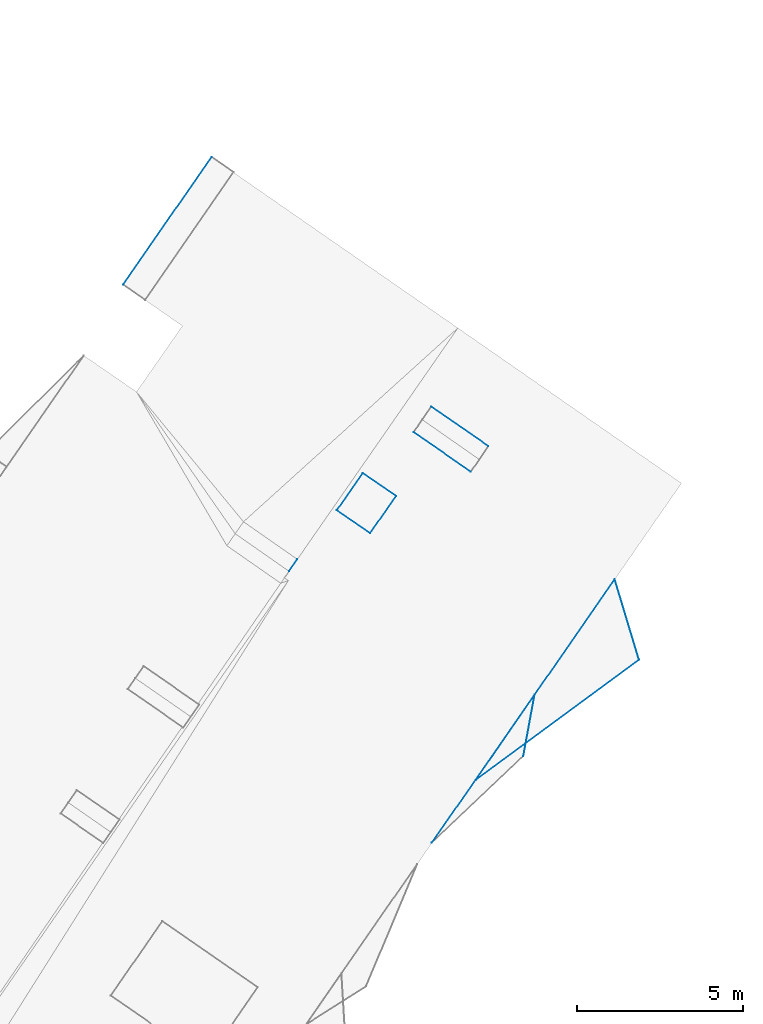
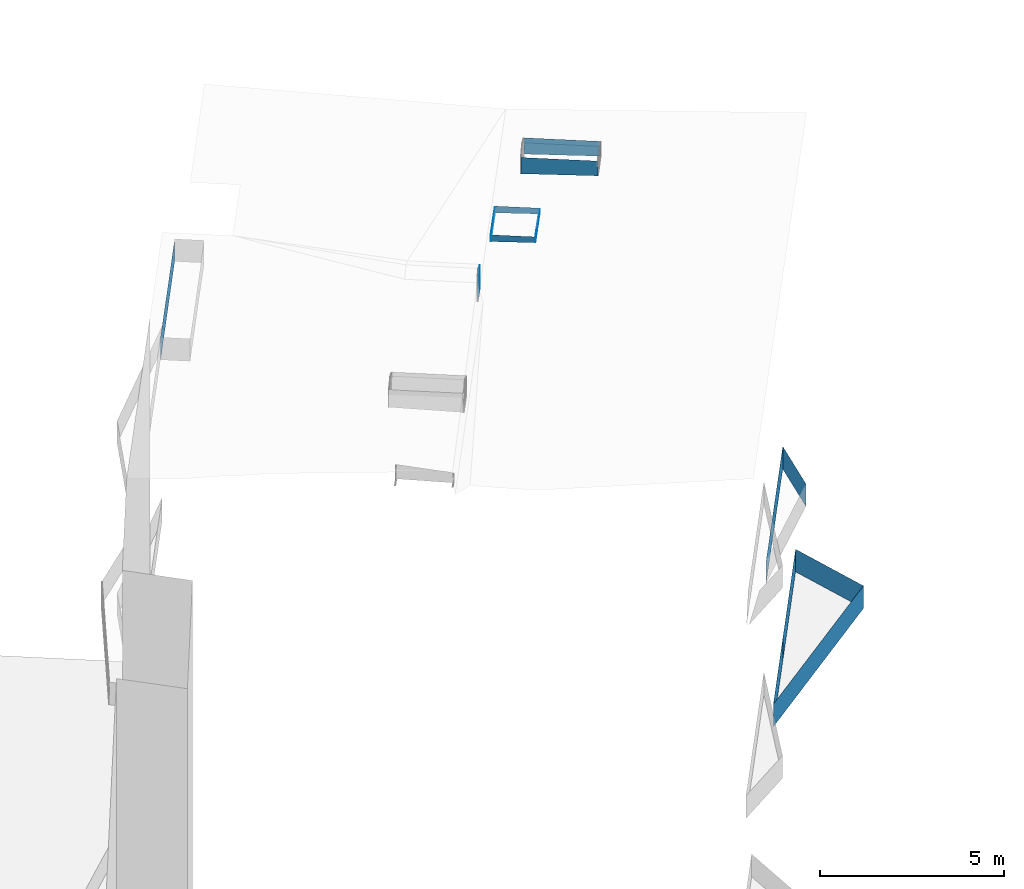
# Not in any storey, part 42 of 136: 21 walls.
"""IFC4 building model written with IfcOpenShell, lengths in metres."""

from ifc_helpers import new_model, entity, si_unit, converted_unit, frame, origin, place, context, subcontext, project, spatial, face_set, surface_model, element, save


model = new_model("IFC4")

# Units and contexts
model_context = context("Model", 3, precision=1e-05, world=origin())
body_context = subcontext(model_context, "Body", "Model", "MODEL_VIEW")
ifc_project = project(units=[converted_unit("PLANEANGLEUNIT", "DEGREE", entity("IfcRatioMeasure", 0.0174532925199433), si_unit("PLANEANGLEUNIT", "RADIAN"), dimensions=[0, 0, 0, 0, 0, 0, 0]), si_unit("AREAUNIT", "SQUARE_METRE"), si_unit("LENGTHUNIT", "METRE")], contexts=[model_context])

# Site, building
site_placement = place(None, origin())
site = spatial("IfcSite", under=ifc_project, at=site_placement, Name="_site")
building_placement = place(site_placement, origin())
building = spatial("IfcBuilding", under=site, at=building_placement, Name="_building")

# Walls
wall_1_placement = place(building_placement, origin())
element("IfcWall", 1, at=wall_1_placement, inside=building, Name="Wall", PredefinedType="NOTDEFINED", context=body_context, shape_type="SurfaceModel", body=[
    surface_model("IfcFaceBasedSurfaceModel", [(0.85, 59.25, 47.54), (0.51, 57.41, 47.54), (0.51, 57.41, 48.29), (0.85, 59.25, 48.29)], [face_set([[[0, 1, 2, 3]]])]),
])
wall_2_placement = place(building_placement, origin())
element("IfcWall", 2, at=wall_2_placement, inside=building, Name="Wall", PredefinedType="NOTDEFINED", context=body_context, shape_type="SurfaceModel", body=[
    surface_model("IfcFaceBasedSurfaceModel", [(-2.24, 54.8, 47.54), (0.85, 59.25, 47.54), (0.85, 59.25, 48.29), (-2.24, 54.8, 48.29)], [face_set([[[0, 1, 2, 3]]])]),
])
wall_3_placement = place(building_placement, origin())
element("IfcWall", 3, at=wall_3_placement, inside=building, Name="Wall", PredefinedType="NOTDEFINED", context=body_context, shape_type="SurfaceModel", body=[
    surface_model("IfcFaceBasedSurfaceModel", [(0.85, 59.25, 47.54), (0.51, 57.41, 47.54), (0.51, 57.41, 48.29), (0.85, 59.25, 48.29)], [face_set([[[0, 1, 2, 3]]])]),
])
wall_4_placement = place(building_placement, origin())
element("IfcWall", 4, at=wall_4_placement, inside=building, Name="Wall", PredefinedType="NOTDEFINED", context=body_context, shape_type="SurfaceModel", body=[
    surface_model("IfcFaceBasedSurfaceModel", [(-2.24, 54.8, 47.54), (0.85, 59.25, 47.54), (0.85, 59.25, 48.29), (-2.24, 54.8, 48.29)], [face_set([[[0, 1, 2, 3]]])]),
])
wall_5_placement = place(building_placement, origin())
element("IfcWall", 5, at=wall_5_placement, inside=building, Name="Wall", PredefinedType="NOTDEFINED", context=body_context, shape_type="SurfaceModel", body=[
    surface_model("IfcFaceBasedSurfaceModel", [(-2.26, 67.92, 54.35), (-0.54, 66.73, 54.35), (-0.54, 66.73, 53.861), (-2.26, 67.92, 53.811)], [face_set([[[0, 1, 2, 3]]])]),
])
wall_6_placement = place(building_placement, origin())
element("IfcWall", 6, at=wall_6_placement, inside=building, Name="Wall", PredefinedType="NOTDEFINED", context=body_context, shape_type="SurfaceModel", body=[
    surface_model("IfcFaceBasedSurfaceModel", [(-0.93, 56.68, 41.18), (0.85, 59.25, 41.18), (0.85, 59.25, 41.93), (-0.93, 56.68, 41.93)], [face_set([[[0, 1, 2, 3]]])]),
])
wall_7_placement = place(building_placement, origin())
element("IfcWall", 7, at=wall_7_placement, inside=building, Name="Wall", PredefinedType="NOTDEFINED", context=body_context, shape_type="SurfaceModel", body=[
    surface_model("IfcFaceBasedSurfaceModel", [(3.99, 60.311, 41.18), (-0.93, 56.68, 41.18), (-0.93, 56.68, 41.93), (3.99, 60.311, 41.93)], [face_set([[[0, 1, 2, 3]]])]),
])
wall_8_placement = place(building_placement, origin())
element("IfcWall", 8, at=wall_8_placement, inside=building, Name="Wall", PredefinedType="NOTDEFINED", context=body_context, shape_type="SurfaceModel", body=[
    surface_model("IfcFaceBasedSurfaceModel", [(3.26, 62.73, 41.18), (3.99, 60.311, 41.18), (3.99, 60.311, 41.93), (3.26, 62.73, 41.93)], [face_set([[[0, 1, 2, 3]]])]),
])
wall_9_placement = place(building_placement, origin())
element("IfcWall", 9, at=wall_9_placement, inside=building, Name="Wall", PredefinedType="NOTDEFINED", context=body_context, shape_type="SurfaceModel", body=[
    surface_model("IfcFaceBasedSurfaceModel", [(0.85, 59.25, 41.18), (3.26, 62.73, 41.18), (3.26, 62.73, 41.93), (0.85, 59.25, 41.93)], [face_set([[[0, 1, 2, 3]]])]),
])
wall_10_placement = place(building_placement, origin())
element("IfcWall", 10, at=wall_10_placement, inside=building, Name="Wall", PredefinedType="NOTDEFINED", context=body_context, shape_type="SurfaceModel", body=[
    surface_model("IfcFaceBasedSurfaceModel", [(-0.93, 56.68, 41.18), (0.85, 59.25, 41.18), (0.85, 59.25, 41.93), (-0.93, 56.68, 41.93)], [face_set([[[0, 1, 2, 3]]])]),
])
wall_11_placement = place(building_placement, origin())
element("IfcWall", 11, at=wall_11_placement, inside=building, Name="Wall", PredefinedType="NOTDEFINED", context=body_context, shape_type="SurfaceModel", body=[
    surface_model("IfcFaceBasedSurfaceModel", [(3.99, 60.311, 41.18), (-0.93, 56.68, 41.18), (-0.93, 56.68, 41.93), (3.99, 60.311, 41.93)], [face_set([[[0, 1, 2, 3]]])]),
])
wall_12_placement = place(building_placement, origin())
element("IfcWall", 12, at=wall_12_placement, inside=building, Name="Wall", PredefinedType="NOTDEFINED", context=body_context, shape_type="SurfaceModel", body=[
    surface_model("IfcFaceBasedSurfaceModel", [(3.26, 62.73, 41.18), (3.99, 60.311, 41.18), (3.99, 60.311, 41.93), (3.26, 62.73, 41.93)], [face_set([[[0, 1, 2, 3]]])]),
])
wall_13_placement = place(building_placement, origin())
element("IfcWall", 13, at=wall_13_placement, inside=building, Name="Wall", PredefinedType="NOTDEFINED", context=body_context, shape_type="SurfaceModel", body=[
    surface_model("IfcFaceBasedSurfaceModel", [(0.85, 59.25, 41.18), (3.26, 62.73, 41.18), (3.26, 62.73, 41.93), (0.85, 59.25, 41.93)], [face_set([[[0, 1, 2, 3]]])]),
])
wall_14_placement = place(building_placement, origin())
element("IfcWall", 14, at=wall_14_placement, inside=building, Name="Wall", PredefinedType="NOTDEFINED", context=body_context, shape_type="SurfaceModel", body=[
    surface_model("IfcFaceBasedSurfaceModel", [(-1.07, 65.96, 54.35), (-2.79, 67.15, 54.35), (-2.79, 67.15, 53.811), (-1.07, 65.96, 53.861)], [face_set([[[0, 1, 2, 3]]])]),
])
wall_15_placement = place(building_placement, origin())
element("IfcWall", 15, at=wall_15_placement, inside=building, Name="Wall", PredefinedType="NOTDEFINED", context=body_context, shape_type="SurfaceModel", body=[
    surface_model("IfcFaceBasedSurfaceModel", [(-5.1, 64.8, 54.02), (-4.32, 65.92, 54.02), (-4.32, 65.92, 53.798), (-5.1, 64.8, 53.798)], [face_set([[[0, 1, 2, 3]]])]),
])
wall_16_placement = place(building_placement, origin())
element("IfcWall", 16, at=wall_16_placement, inside=building, Name="Wall", PredefinedType="NOTDEFINED", context=body_context, shape_type="SurfaceModel", body=[
    surface_model("IfcFaceBasedSurfaceModel", [(-4.1, 64.11, 54.02), (-5.1, 64.8, 54.02), (-5.1, 64.8, 53.798), (-4.1, 64.11, 53.827)], [face_set([[[0, 1, 2, 3]]])]),
])
wall_17_placement = place(building_placement, origin())
element("IfcWall", 17, at=wall_17_placement, inside=building, Name="Wall", PredefinedType="NOTDEFINED", context=body_context, shape_type="SurfaceModel", body=[
    surface_model("IfcFaceBasedSurfaceModel", [(-3.32, 65.23, 54.02), (-4.1, 64.11, 54.02), (-4.1, 64.11, 53.827), (-3.32, 65.23, 53.827)], [face_set([[[0, 1, 2, 3]]])]),
])
wall_18_placement = place(building_placement, origin())
element("IfcWall", 18, at=wall_18_placement, inside=building, Name="Wall", PredefinedType="NOTDEFINED", context=body_context, shape_type="SurfaceModel", body=[
    surface_model("IfcFaceBasedSurfaceModel", [(-4.32, 65.92, 54.02), (-3.32, 65.23, 54.02), (-3.32, 65.23, 53.827), (-4.32, 65.92, 53.798)], [face_set([[[0, 1, 2, 3]]])]),
])
wall_19_placement = place(building_placement, origin())
element("IfcWall", 19, at=wall_19_placement, inside=building, Name="Wall", PredefinedType="NOTDEFINED", context=body_context, shape_type="SurfaceModel", body=[
    surface_model("IfcFaceBasedSurfaceModel", [(-6.29, 63.33, 54.35), (-6.54, 62.97, 54.52), (-6.54, 62.97, 53.59), (-6.29, 63.33, 53.59)], [face_set([[[0, 1, 2, 3]]])]),
])
for number, where, name in (
    (20, (0.0, 0.0, 0.0), "Wall"),
    (21, (0.0, 0.0, 0.0), "Wall"),
):
    element("IfcWall", number, at=place(building_placement, frame(where)), inside=building, Name=name, PredefinedType="NOTDEFINED", context=body_context, shape_type="SurfaceModel", body=[
        surface_model("IfcFaceBasedSurfaceModel", [(-11.53, 71.59, 48.01), (-8.87, 75.43, 48.01), (-8.87, 75.43, 48.76), (-11.53, 71.59, 48.76)], [face_set([[[0, 1, 2, 3]]])]),
    ])

save(model, "model.ifc")
